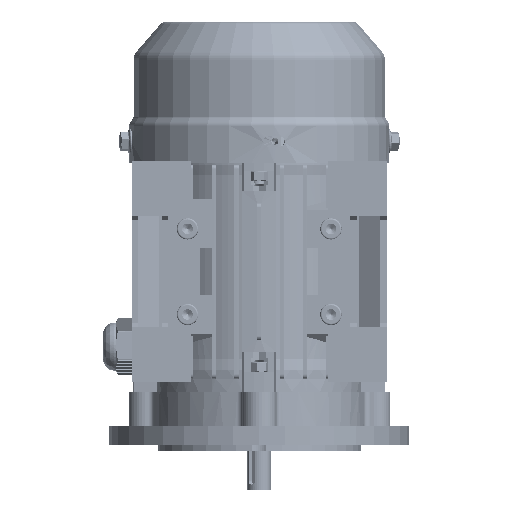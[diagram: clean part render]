
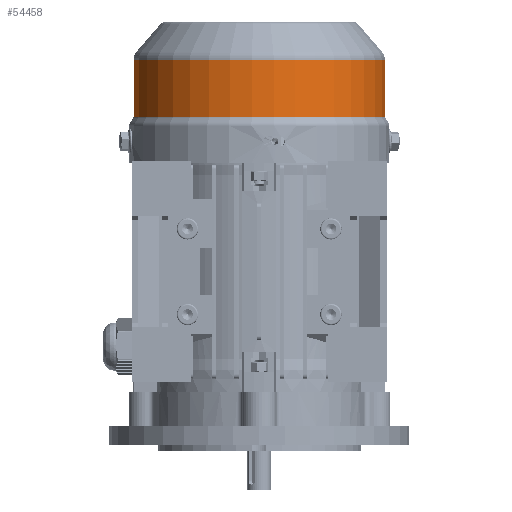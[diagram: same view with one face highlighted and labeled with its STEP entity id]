
A CAD part, front view. The second image highlights one B-rep face of the part: STEP entity #54458.
In plain terms, the highlighted cylindrical face has radius 58.8 mm (diameter 117.6 mm), a partial arc.
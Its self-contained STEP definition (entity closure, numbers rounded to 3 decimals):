
#7721 = LINE ( 'NONE', #87102, #122145 ) ;
#12294 = CARTESIAN_POINT ( 'NONE',  ( 0., 17.63, 0. ) ) ;
#14113 = DIRECTION ( 'NONE',  ( 0., -1., 0. ) ) ;
#18422 = EDGE_CURVE ( 'NONE', #45594, #44697, #20286, .T. ) ;
#20286 = CIRCLE ( 'NONE', #25599, 58.8 ) ;
#21218 = DIRECTION ( 'NONE',  ( 0., -1., 0. ) ) ;
#24821 = DIRECTION ( 'NONE',  ( 0., -1., 0. ) ) ;
#25599 = AXIS2_PLACEMENT_3D ( 'NONE', #91229, #24821, #102337 ) ;
#27619 = VERTEX_POINT ( 'NONE', #83718 ) ;
#33405 = CARTESIAN_POINT ( 'NONE',  ( 58.8, 60.025, 0. ) ) ;
#35079 = DIRECTION ( 'NONE',  ( 0., -1., 0. ) ) ;
#38004 = CIRCLE ( 'NONE', #103258, 58.8 ) ;
#41411 = CARTESIAN_POINT ( 'NONE',  ( 58.8, 33.496, 0. ) ) ;
#44697 = VERTEX_POINT ( 'NONE', #33405 ) ;
#45594 = VERTEX_POINT ( 'NONE', #65550 ) ;
#47013 = CARTESIAN_POINT ( 'NONE',  ( 58.8, 17.63, 0. ) ) ;
#48882 = EDGE_CURVE ( 'NONE', #44697, #103622, #55046, .T. ) ;
#54458 = ADVANCED_FACE ( 'NONE', ( #71765 ), #68267, .T. ) ;
#55046 = LINE ( 'NONE', #47013, #140038 ) ;
#58524 = ORIENTED_EDGE ( 'NONE', *, *, #124464, .F. ) ;
#63706 = CARTESIAN_POINT ( 'NONE',  ( 0., 33.496, 0. ) ) ;
#65550 = CARTESIAN_POINT ( 'NONE',  ( -58.8, 60.025, 0. ) ) ;
#68267 = CYLINDRICAL_SURFACE ( 'NONE', #72992, 58.8 ) ;
#71765 = FACE_OUTER_BOUND ( 'NONE', #94423, .T. ) ;
#72992 = AXIS2_PLACEMENT_3D ( 'NONE', #12294, #35079, #134396 ) ;
#74833 = DIRECTION ( 'NONE',  ( 1., 0., 0. ) ) ;
#80185 = ORIENTED_EDGE ( 'NONE', *, *, #48882, .T. ) ;
#83718 = CARTESIAN_POINT ( 'NONE',  ( -58.8, 33.496, 0. ) ) ;
#87102 = CARTESIAN_POINT ( 'NONE',  ( -58.8, 17.63, 0. ) ) ;
#91229 = CARTESIAN_POINT ( 'NONE',  ( 0., 60.025, 0. ) ) ;
#94423 = EDGE_LOOP ( 'NONE', ( #58524, #107919, #80185, #103001 ) ) ;
#95819 = EDGE_CURVE ( 'NONE', #27619, #103622, #38004, .T. ) ;
#102337 = DIRECTION ( 'NONE',  ( 1., 0., 0. ) ) ;
#103001 = ORIENTED_EDGE ( 'NONE', *, *, #95819, .F. ) ;
#103258 = AXIS2_PLACEMENT_3D ( 'NONE', #63706, #141279, #74833 ) ;
#103622 = VERTEX_POINT ( 'NONE', #41411 ) ;
#107919 = ORIENTED_EDGE ( 'NONE', *, *, #18422, .T. ) ;
#122145 = VECTOR ( 'NONE', #21218, 1000. ) ;
#124464 = EDGE_CURVE ( 'NONE', #45594, #27619, #7721, .T. ) ;
#134396 = DIRECTION ( 'NONE',  ( 1., 0., 0. ) ) ;
#140038 = VECTOR ( 'NONE', #14113, 1000. ) ;
#141279 = DIRECTION ( 'NONE',  ( 0., -1., 0. ) ) ;
